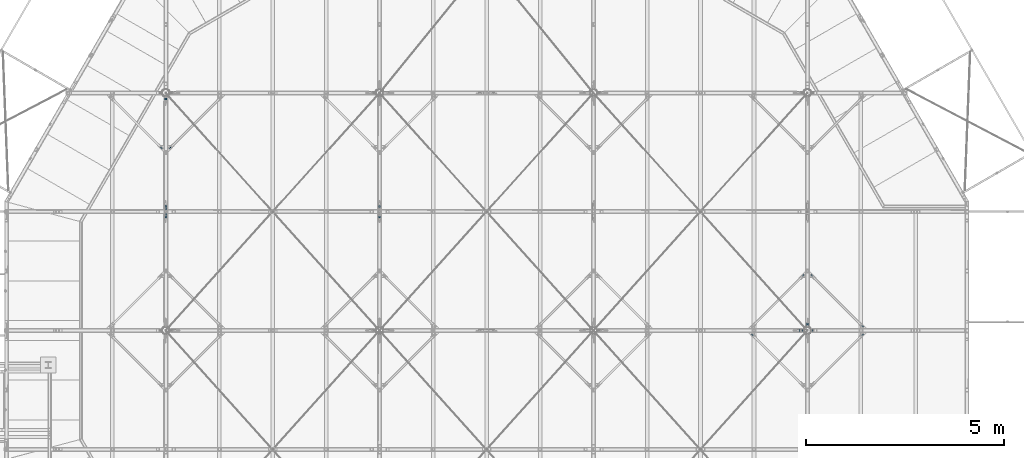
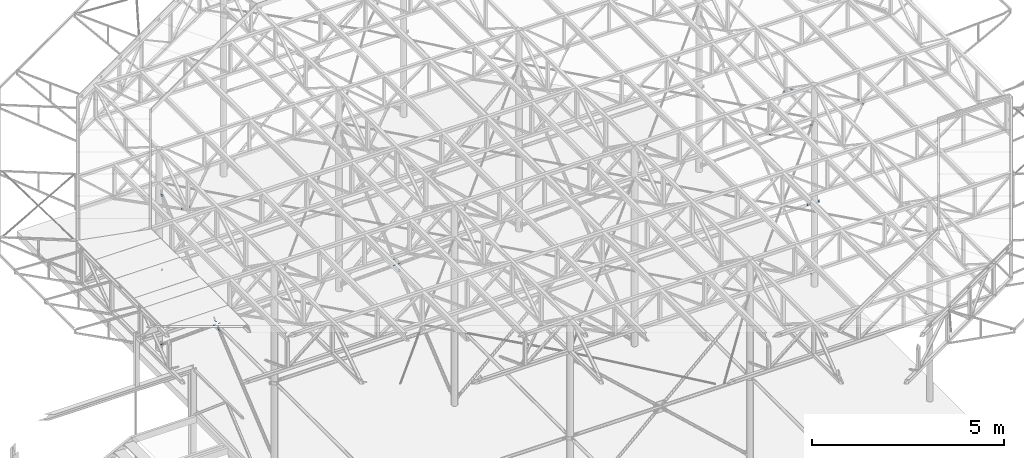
# One storey, part 120 of 132: 28 mechanical fasteners, 23 elements without a shape of their own.
"""IFC2X3 building model written with IfcOpenShell, lengths in millimetres."""

import ifcopenshell
import ifcopenshell.guid

model = None  # the IFC model being written
_history = None  # IfcOwnerHistory: only IFC2X3 demands one
_inside = {}  # id of a spatial element -> (the spatial element, [elements in it])
_under = {}  # id of a project, library or spatial element -> (it, [spatial elements below it])
_declared = {}  # id of a project -> (the project, [libraries it declares])
_typed = {}  # id of a type object -> (the type object, [elements of that type])
_made_of = {}  # id of a material, layer set ... -> (it, [elements and type objects made of it])


def new_model(schema):
    """Start an empty IFC model of exactly this schema.

    Asked for "IFC4X3", IfcOpenShell would pick the latest addendum, in which some entities
    have other attributes; the version numbers below select the first issue.
    IFC2X3 requires an IfcOwnerHistory on every rooted entity: one is made here for all.
    """
    global model, _history
    if schema == "IFC4X3":
        model = ifcopenshell.file(schema_version=(4, 3, 0, 0))
    else:
        model = ifcopenshell.file(schema=schema)
    _inside.clear()
    _under.clear()
    _declared.clear()
    _typed.clear()
    _made_of.clear()
    _history = None
    if model.schema == "IFC2X3":
        org = make("IfcOrganization", Name="unknown")
        user = make(
            "IfcPersonAndOrganization",
            ThePerson=make("IfcPerson", FamilyName="unknown"),
            TheOrganization=org,
        )
        app = make(
            "IfcApplication",
            ApplicationDeveloper=org,
            Version="unknown",
            ApplicationFullName="unknown",
            ApplicationIdentifier="unknown",
        )
        _history = make(
            "IfcOwnerHistory",
            OwningUser=user,
            OwningApplication=app,
            ChangeAction="ADDED",
            CreationDate=0,
        )
    return model


def make(cls, **values):
    """One entity of the class cls with the attributes given. An attribute that is None is left unset."""
    return model.create_entity(
        cls, **{name: value for name, value in values.items() if value is not None}
    )


def rooted(cls, **values):
    """An entity with a GlobalId (a new one), such as an element, a storey or a relation."""
    return make(cls, GlobalId=ifcopenshell.guid.new(), OwnerHistory=_history, **values)


def si_unit(unit_type, name, prefix=None):
    """IfcSIUnit, for example si_unit("LENGTHUNIT", "METRE", prefix="MILLI")."""
    return make("IfcSIUnit", UnitType=unit_type, Prefix=prefix, Name=name)


def assignment(units):
    """IfcUnitAssignment: the units of a project."""
    return None if units is None else make("IfcUnitAssignment", Units=units)


def point(xyz):
    """IfcCartesianPoint."""
    return None if xyz is None else make("IfcCartesianPoint", Coordinates=xyz)


def direction(xyz):
    """IfcDirection."""
    return None if xyz is None else make("IfcDirection", DirectionRatios=xyz)


def frame(location, z_axis=None, x_axis=None):
    """IfcAxis2Placement3D, a coordinate frame: its origin and axes. An axis left out is left unset."""
    return make(
        "IfcAxis2Placement3D",
        Location=point(location),
        Axis=direction(z_axis),
        RefDirection=direction(x_axis),
    )


def frame_2d(location, x_axis=None):
    """IfcAxis2Placement2D, a coordinate frame in the plane: its origin and x axis."""
    return make(
        "IfcAxis2Placement2D", Location=point(location), RefDirection=direction(x_axis)
    )


def origin_with_axes():
    """The frame at (0, 0, 0) with the z axis (0, 0, 1) and the x axis (1, 0, 0) written out."""
    return frame((0.0, 0.0, 0.0), z_axis=(0.0, 0.0, 1.0), x_axis=(1.0, 0.0, 0.0))


def origin_2d_with_axis():
    """The frame at (0, 0) in the plane with the x axis (1, 0) written out."""
    return frame_2d((0.0, 0.0), x_axis=(1.0, 0.0))


def place(relative_to, where):
    """IfcLocalPlacement: puts the frame where relative to a parent placement (None: the world)."""
    return make(
        "IfcLocalPlacement", PlacementRelTo=relative_to, RelativePlacement=where
    )


def context(
    kind, dimensions, precision=None, world=None, true_north=None, identifier=None
):
    """IfcGeometricRepresentationContext, for example the 3D "Model" context."""
    return make(
        "IfcGeometricRepresentationContext",
        ContextIdentifier=identifier,
        ContextType=kind,
        CoordinateSpaceDimension=dimensions,
        Precision=precision,
        WorldCoordinateSystem=world,
        TrueNorth=true_north,
    )


def subcontext(parent, identifier, kind, view, scale=None):
    """IfcGeometricRepresentationSubContext, for example "Body" below "Model"."""
    return make(
        "IfcGeometricRepresentationSubContext",
        ContextIdentifier=identifier,
        ContextType=kind,
        ParentContext=parent,
        TargetScale=scale,
        TargetView=view,
    )


def project(units=None, contexts=None):
    """IfcProject with its units and contexts."""
    return rooted(
        "IfcProject",
        Name="project",
        RepresentationContexts=contexts,
        UnitsInContext=assignment(units),
    )


def spatial(cls, under=None, at=None, **own):
    """A site, building, storey or space (cls), placed at a placement, below another one or the project."""
    s = rooted(cls, ObjectPlacement=at, **own)
    if under is not None:
        _under.setdefault(under.id(), (under, []))[1].append(s)
    return s


def polyline(points):
    """IfcPolyline through the points."""
    return make("IfcPolyline", Points=[point(p) for p in points])


def profile(cls, at=None, kind="AREA", **sizes):
    """A parametric profile (cls). Its sizes go by their IFC names, for example OverallWidth=200.0."""
    return make(cls, ProfileType=kind, Position=at, **sizes)


def circle(**sizes):
    """IfcCircleProfileDef."""
    return profile("IfcCircleProfileDef", **sizes)


def outline(outer, holes=None, kind="AREA"):
    """IfcArbitraryClosedProfileDef: a profile drawn as a closed curve; with holes, ...WithVoids."""
    if holes is None:
        return make("IfcArbitraryClosedProfileDef", ProfileType=kind, OuterCurve=outer)
    return make(
        "IfcArbitraryProfileDefWithVoids",
        ProfileType=kind,
        OuterCurve=outer,
        InnerCurves=holes,
    )


def extrude(swept, where, along, depth):
    """IfcExtrudedAreaSolid: the profile swept, set in the frame where, extruded along a direction by depth."""
    return make(
        "IfcExtrudedAreaSolid",
        SweptArea=swept,
        Position=where,
        ExtrudedDirection=direction(along),
        Depth=depth,
    )


def shape(context_of_items, identifier, shape_type, items):
    """IfcShapeRepresentation: the items that make up one representation, for example the "Body"."""
    return make(
        "IfcShapeRepresentation",
        ContextOfItems=context_of_items,
        RepresentationIdentifier=identifier,
        RepresentationType=shape_type,
        Items=items,
    )


def source(mapping_origin, context_of_items, identifier, shape_type, items):
    """IfcRepresentationMap: a shape defined once, which mapped items show again and again."""
    return make(
        "IfcRepresentationMap",
        MappingOrigin=mapping_origin,
        MappedRepresentation=shape(context_of_items, identifier, shape_type, items),
    )


def transform(
    local_origin,
    x_axis=None,
    y_axis=None,
    z_axis=None,
    scale=None,
    scale2=None,
    scale3=None,
    uniform=True,
):
    """IfcCartesianTransformationOperator3D, or its non-uniform kind. x_axis, y_axis, z_axis: its Axis1, 2, 3."""
    if uniform:
        return make(
            "IfcCartesianTransformationOperator3D",
            Axis1=direction(x_axis),
            Axis2=direction(y_axis),
            LocalOrigin=point(local_origin),
            Scale=scale,
            Axis3=direction(z_axis),
        )
    return make(
        "IfcCartesianTransformationOperator3DnonUniform",
        Axis1=direction(x_axis),
        Axis2=direction(y_axis),
        LocalOrigin=point(local_origin),
        Scale=scale,
        Axis3=direction(z_axis),
        Scale2=scale2,
        Scale3=scale3,
    )


def mapped(mapping_source, mapping_target):
    """IfcMappedItem: shows the shape of a source again, moved by a transform."""
    return make(
        "IfcMappedItem", MappingSource=mapping_source, MappingTarget=mapping_target
    )


def material(Name=None, Category=None):
    """IfcMaterial."""
    return make("IfcMaterial", Name=Name, Category=Category)


def made_of(thing, what):
    """Note that an element or type object is made of a material, layer set ...; save() writes the relation."""
    if what is not None:
        _made_of.setdefault(what.id(), (what, []))[1].append(thing)
    return thing


def type_object(cls, material=None, **own):
    """A type object (cls), such as IfcWallType, which elements share."""
    return made_of(rooted(cls, **own), material)


def element(
    cls,
    number,
    at=None,
    inside=None,
    cuts=None,
    type_object=None,
    material=None,
    context=None,
    identifier="Body",
    shape_type=None,
    held_by="IfcProductDefinitionShape",
    body=None,
    shapes=None,
    **own,
):
    """One element of the class cls, such as IfcWall. Its Tag is "e" and its number.

    at: its placement. inside: the storey or other place that contains it. cuts: it is an
    opening in that element (IfcRelVoidsElement). A single representation is given by context,
    identifier, shape_type and body (its items); several are given by shapes. held_by: the class
    of the entity that holds the representations. save() writes the other relations.
    """
    e = rooted(cls, Tag="e%d" % number, ObjectPlacement=at, **own)
    if body is not None:
        shapes = [shape(context, identifier, shape_type, body)]
    if shapes is not None:
        e.Representation = make(held_by, Representations=shapes)
    if inside is not None:
        _inside.setdefault(inside.id(), (inside, []))[1].append(e)
    if cuts is not None:
        rooted(
            "IfcRelVoidsElement", RelatingBuildingElement=cuts, RelatedOpeningElement=e
        )
    if type_object is not None:
        _typed.setdefault(type_object.id(), (type_object, []))[1].append(e)
    return made_of(e, material)


def aggregate(whole, parts):
    """IfcRelAggregates: a whole, such as a stair, and the parts it consists of."""
    return rooted("IfcRelAggregates", RelatingObject=whole, RelatedObjects=parts)


def save(model, path):
    """Write the relations noted so far, then the file.

    IfcRelAggregates (storeys below a building ...), IfcRelContainedInSpatialStructure (elements
    in a storey), IfcRelDefinesByType, IfcRelAssociatesMaterial and IfcRelDeclares: one each for
    every whole, place, type object, material and project.
    """
    for whole, parts in _under.values():
        aggregate(whole, parts)
    for where, things in _inside.values():
        rooted(
            "IfcRelContainedInSpatialStructure",
            RelatedElements=things,
            RelatingStructure=where,
        )
    for kind, things in _typed.values():
        rooted("IfcRelDefinesByType", RelatedObjects=things, RelatingType=kind)
    for what, things in _made_of.values():
        rooted("IfcRelAssociatesMaterial", RelatedObjects=things, RelatingMaterial=what)
    for by, libraries in _declared.values():
        rooted("IfcRelDeclares", RelatingContext=by, RelatedDefinitions=libraries)
    model.write(path)


model = new_model("IFC2X3")

# Units and contexts
model_context = context("Model", 3, precision=1e-05, world=origin_with_axes())
body_context = subcontext(model_context, "Body", "Model", "MODEL_VIEW")
ifc_project = project(units=[si_unit("LENGTHUNIT", "METRE", prefix="MILLI"), si_unit("AREAUNIT", "SQUARE_METRE"), si_unit("VOLUMEUNIT", "CUBIC_METRE"), si_unit("MASSUNIT", "GRAM", prefix="KILO"), si_unit("TIMEUNIT", "SECOND"), si_unit("PLANEANGLEUNIT", "RADIAN"), si_unit("SOLIDANGLEUNIT", "STERADIAN"), si_unit("THERMODYNAMICTEMPERATUREUNIT", "DEGREE_CELSIUS"), si_unit("LUMINOUSINTENSITYUNIT", "LUMEN")], contexts=[model_context])

# Site, building, storey
site_placement = place(None, origin_with_axes())
site = spatial("IfcSite", under=ifc_project, at=site_placement, Name="Budowa", CompositionType="ELEMENT")
building_placement = place(site_placement, origin_with_axes())
building = spatial("IfcBuilding", under=site, at=building_placement, Name="Undefined", CompositionType="ELEMENT")
storey_placement = place(building_placement, origin_with_axes())
storey = spatial("IfcBuildingStorey", under=building, at=storey_placement, Name="Undefined", CompositionType="ELEMENT", Elevation=0.0)

# Assembly, mechanical fastener
assembly_1_placement = place(storey_placement, origin_with_axes())
assembly_1 = element("IfcElementAssembly", 1, at=assembly_1_placement, inside=storey, Name="Steel Assembly", AssemblyPlace="NOTDEFINED", PredefinedType="RIGID_FRAME")
ifc_material = material(Name="Undefined")
discrete_accessory_type = type_object("IfcDiscreteAccessoryType", Name="Bolt assembly")
shared_shape_1 = source(origin_with_axes(), body_context, "Body", "SweptSolid", [
    extrude(circle(Radius=9.5, at=origin_2d_with_axis()), frame((0.0, -4.09999999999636, 0.0), z_axis=(0.0, 1.0, 0.0), x_axis=(1.0, 0.0, 0.0)), (0.0, 0.0, 1.0), 8.1),
    extrude(circle(Radius=9.5, at=origin_2d_with_axis()), frame((0.0, -11.9, 0.0), z_axis=(0.0, 1.0, 0.0), x_axis=(1.0, 0.0, 0.0)), (0.0, 0.0, 1.0), 8.0),
    extrude(outline(polyline([(13.85640646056, 0.0), (6.92820323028, 12.0000000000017), (-6.92820323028, 12.0000000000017), (-13.85640646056, 0.0), (-6.92820323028, -12.0000000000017), (6.92820323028, -12.0000000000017), (13.85640646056, 0.0)])), frame((0.0, -25.0, 0.0), z_axis=(0.0, 1.0, 0.0), x_axis=(1.0, 0.0, 0.0)), (0.0, 0.0, 1.0), 10.0),
    extrude(circle(Radius=8.0, at=origin_2d_with_axis()), frame((0.0, -15.0, 0.0), z_axis=(0.0, 1.0, 0.0), x_axis=(1.0, 0.0, 0.0)), (0.0, 0.0, 1.0), 40.0),
    extrude(circle(Radius=15.0, at=origin_2d_with_axis()), frame((0.0, -15.0, 0.0), z_axis=(0.0, 1.0, 0.0), x_axis=(1.0, 0.0, 0.0)), (0.0, 0.0, 1.0), 3.0),
    extrude(circle(Radius=15.0, at=origin_2d_with_axis()), frame((0.0, 4.0, 0.0), z_axis=(0.0, 1.0, 0.0), x_axis=(1.0, 0.0, 0.0)), (0.0, 0.0, 1.0), 3.0),
    extrude(outline(polyline([(13.85640646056, 0.0), (6.92820323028, 12.0000000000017), (-6.92820323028, 12.0000000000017), (-13.85640646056, 0.0), (-6.92820323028, -12.0000000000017), (6.92820323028, -12.0000000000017), (13.85640646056, 0.0)])), frame((0.0, 7.0, 0.0), z_axis=(0.0, 1.0, 0.0), x_axis=(1.0, 0.0, 0.0)), (0.0, 0.0, 1.0), 13.0),
])
mechanical_fastener_1_placement = place(assembly_1_placement, frame((4025.00000032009, 15117.561442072, 10018.2969107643), z_axis=(0.0, -0.63916553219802, -0.769069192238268), x_axis=(0.0, 0.769069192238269, -0.639165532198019)))
mechanical_fastener_1 = element("IfcMechanicalFastener", 2, at=mechanical_fastener_1_placement, type_object=discrete_accessory_type, material=ifc_material, Name="Bolt assembly", NominalDiameter=16.0, NominalLength=40.0, context=body_context, shape_type="MappedRepresentation", body=[
    mapped(shared_shape_1, transform((0.0, 0.0, 0.0))),
    mapped(shared_shape_1, transform((40.0000000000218, 0.0, -1.81898940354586e-12))),
])

assembly_2_placement = place(storey_placement, origin_with_axes())
assembly_2 = element("IfcElementAssembly", 3, at=assembly_2_placement, inside=storey, Name="Steel Assembly", AssemblyPlace="NOTDEFINED", PredefinedType="RIGID_FRAME")
mechanical_fastener_2_placement = place(assembly_2_placement, frame((4025.00000032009, 14882.4407087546, 10018.2969108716), z_axis=(0.0, -0.639165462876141, 0.769069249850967), x_axis=(0.0, -0.769069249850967, -0.639165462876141)))
mechanical_fastener_2 = element("IfcMechanicalFastener", 4, at=mechanical_fastener_2_placement, type_object=discrete_accessory_type, material=ifc_material, Name="Bolt assembly", NominalDiameter=16.0, NominalLength=40.0, context=body_context, shape_type="MappedRepresentation", body=[
    mapped(shared_shape_1, transform((0.0, 0.0, 0.0))),
    mapped(shared_shape_1, transform((40.0000000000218, 0.0, -1.81898940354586e-12))),
])
aggregate(assembly_2, [mechanical_fastener_2])

assembly_3_placement = place(storey_placement, origin_with_axes())
assembly_3 = element("IfcElementAssembly", 5, at=assembly_3_placement, inside=storey, Name="Steel Assembly", AssemblyPlace="NOTDEFINED", PredefinedType="RIGID_FRAME")
mechanical_fastener_3_placement = place(assembly_3_placement, frame((4025.00000058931, 14882.4401106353, 10213.7038423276), z_axis=(0.0, 0.639165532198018, 0.76906919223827), x_axis=(0.0, -0.76906919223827, 0.639165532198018)))
mechanical_fastener_3 = element("IfcMechanicalFastener", 6, at=mechanical_fastener_3_placement, type_object=discrete_accessory_type, material=ifc_material, Name="Bolt assembly", NominalDiameter=16.0, NominalLength=40.0, context=body_context, shape_type="MappedRepresentation", body=[
    mapped(shared_shape_1, transform((0.0, 0.0, 0.0))),
    mapped(shared_shape_1, transform((40.0000000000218, 0.0, -1.81898940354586e-12))),
])
aggregate(assembly_3, [mechanical_fastener_3])

assembly_4_placement = place(storey_placement, origin_with_axes())
assembly_4 = element("IfcElementAssembly", 7, at=assembly_4_placement, inside=storey, Name="Steel Assembly", AssemblyPlace="NOTDEFINED", PredefinedType="RIGID_FRAME")
mechanical_fastener_4_placement = place(assembly_4_placement, frame((4025.00000058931, 15117.5620842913, 10213.7038425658), z_axis=(0.0, 0.639165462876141, -0.769069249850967), x_axis=(0.0, 0.769069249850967, 0.639165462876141)))
mechanical_fastener_4 = element("IfcMechanicalFastener", 8, at=mechanical_fastener_4_placement, type_object=discrete_accessory_type, material=ifc_material, Name="Bolt assembly", NominalDiameter=16.0, NominalLength=40.0, context=body_context, shape_type="MappedRepresentation", body=[
    mapped(shared_shape_1, transform((0.0, 0.0, 0.0))),
    mapped(shared_shape_1, transform((40.0000000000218, 0.0, -1.81898940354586e-12))),
])

assembly_5_placement = place(storey_placement, origin_with_axes())
assembly_5 = element("IfcElementAssembly", 9, at=assembly_5_placement, inside=storey, Name="Steel Assembly", AssemblyPlace="NOTDEFINED", PredefinedType="RIGID_FRAME")
mechanical_fastener_5_placement = place(assembly_5_placement, frame((9425.00000029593, 15117.5614420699, 10018.296910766), z_axis=(0.0, -0.63916553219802, -0.769069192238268), x_axis=(0.0, 0.769069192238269, -0.639165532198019)))
mechanical_fastener_5 = element("IfcMechanicalFastener", 10, at=mechanical_fastener_5_placement, type_object=discrete_accessory_type, material=ifc_material, Name="Bolt assembly", NominalDiameter=16.0, NominalLength=40.0, context=body_context, shape_type="MappedRepresentation", body=[
    mapped(shared_shape_1, transform((0.0, 0.0, 0.0))),
    mapped(shared_shape_1, transform((40.0000000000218, 0.0, -1.81898940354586e-12))),
])
aggregate(assembly_5, [mechanical_fastener_5])

assembly_6_placement = place(storey_placement, origin_with_axes())
assembly_6 = element("IfcElementAssembly", 11, at=assembly_6_placement, inside=storey, Name="Steel Assembly", AssemblyPlace="NOTDEFINED", PredefinedType="RIGID_FRAME")
mechanical_fastener_6_placement = place(assembly_6_placement, frame((9425.00000029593, 14882.440708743, 10018.296910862), z_axis=(0.0, -0.639165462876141, 0.769069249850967), x_axis=(0.0, -0.769069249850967, -0.639165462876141)))
mechanical_fastener_6 = element("IfcMechanicalFastener", 12, at=mechanical_fastener_6_placement, type_object=discrete_accessory_type, material=ifc_material, Name="Bolt assembly", NominalDiameter=16.0, NominalLength=40.0, context=body_context, shape_type="MappedRepresentation", body=[
    mapped(shared_shape_1, transform((0.0, 0.0, 0.0))),
    mapped(shared_shape_1, transform((40.0000000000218, 0.0, -1.81898940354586e-12))),
])
aggregate(assembly_6, [mechanical_fastener_6])

assembly_7_placement = place(storey_placement, origin_with_axes())
assembly_7 = element("IfcElementAssembly", 13, at=assembly_7_placement, inside=storey, Name="Steel Assembly", AssemblyPlace="NOTDEFINED", PredefinedType="RIGID_FRAME")
mechanical_fastener_7_placement = place(assembly_7_placement, frame((9425.00000056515, 14882.4401106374, 10213.7038423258), z_axis=(0.0, 0.639165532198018, 0.76906919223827), x_axis=(0.0, -0.76906919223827, 0.639165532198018)))
mechanical_fastener_7 = element("IfcMechanicalFastener", 14, at=mechanical_fastener_7_placement, type_object=discrete_accessory_type, material=ifc_material, Name="Bolt assembly", NominalDiameter=16.0, NominalLength=40.0, context=body_context, shape_type="MappedRepresentation", body=[
    mapped(shared_shape_1, transform((0.0, 0.0, 0.0))),
    mapped(shared_shape_1, transform((40.0000000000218, 0.0, -1.81898940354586e-12))),
])
aggregate(assembly_7, [mechanical_fastener_7])

assembly_8_placement = place(storey_placement, origin_with_axes())
assembly_8 = element("IfcElementAssembly", 15, at=assembly_8_placement, inside=storey, Name="Steel Assembly", AssemblyPlace="NOTDEFINED", PredefinedType="RIGID_FRAME")
mechanical_fastener_8_placement = place(assembly_8_placement, frame((9425.00000056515, 15117.5620843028, 10213.7038425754), z_axis=(0.0, 0.639165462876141, -0.769069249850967), x_axis=(0.0, 0.769069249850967, 0.639165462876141)))
mechanical_fastener_8 = element("IfcMechanicalFastener", 16, at=mechanical_fastener_8_placement, type_object=discrete_accessory_type, material=ifc_material, Name="Bolt assembly", NominalDiameter=16.0, NominalLength=40.0, context=body_context, shape_type="MappedRepresentation", body=[
    mapped(shared_shape_1, transform((0.0, 0.0, 0.0))),
    mapped(shared_shape_1, transform((40.0000000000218, 0.0, -1.81898940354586e-12))),
])
aggregate(assembly_8, [mechanical_fastener_8])

assembly_9_placement = place(storey_placement, origin_with_axes())
assembly_9 = element("IfcElementAssembly", 17, at=assembly_9_placement, inside=storey, Name="Steel Assembly", AssemblyPlace="NOTDEFINED", PredefinedType="RIGID_FRAME")
shared_shape_2 = source(origin_with_axes(), body_context, "Body", "SweptSolid", [
    extrude(circle(Radius=9.0, at=origin_2d_with_axis()), frame((0.0, 0.0999999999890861, 0.0), z_axis=(0.0, 1.0, 0.0), x_axis=(1.0, 0.0, 0.0)), (0.0, 0.0, 1.0), 8.0),
    extrude(circle(Radius=9.0, at=origin_2d_with_axis()), frame((0.0, 11.9000000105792, 0.0), z_axis=(0.0, 1.0, 0.0), x_axis=(1.0, 0.0, 0.0)), (0.0, 0.0, 1.0), 8.1),
    extrude(outline(polyline([(13.85640646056, 0.0), (6.92820323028, 12.0000000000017), (-6.92820323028, 12.0000000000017), (-13.85640646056, 0.0), (-6.92820323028, -12.0000000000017), (6.92820323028, -12.0000000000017), (13.85640646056, 0.0)])), frame((0.0, -13.0, 0.0), z_axis=(0.0, 1.0, 0.0), x_axis=(1.0, 0.0, 0.0)), (0.0, 0.0, 1.0), 10.0),
    extrude(circle(Radius=8.0, at=origin_2d_with_axis()), frame((0.0, -2.99999999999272, 0.0), z_axis=(0.0, 1.0, 0.0), x_axis=(1.0, 0.0, 0.0)), (0.0, 0.0, 1.0), 45.0),
    extrude(circle(Radius=15.0, at=origin_2d_with_axis()), frame((0.0, -2.99999999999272, 0.0), z_axis=(0.0, 1.0, 0.0), x_axis=(1.0, 0.0, 0.0)), (0.0, 0.0, 1.0), 3.0),
    extrude(circle(Radius=15.0, at=origin_2d_with_axis()), frame((0.0, 20.0000000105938, 0.0), z_axis=(0.0, 1.0, 0.0), x_axis=(1.0, 0.0, 0.0)), (0.0, 0.0, 1.0), 3.0),
    extrude(outline(polyline([(13.85640646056, 0.0), (6.92820323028, 12.0000000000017), (-6.92820323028, 12.0000000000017), (-13.85640646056, 0.0), (-6.92820323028, -12.0000000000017), (6.92820323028, -12.0000000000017), (13.85640646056, 0.0)])), frame((0.0, 23.0000000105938, 0.0), z_axis=(0.0, 1.0, 0.0), x_axis=(1.0, 0.0, 0.0)), (0.0, 0.0, 1.0), 13.0),
])
mechanical_fastener_9_placement = place(assembly_9_placement, frame((20353.1367126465, 11990.000000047, 10096.0003779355), z_axis=(-1.0, 0.0, 0.0), x_axis=(0.0, 0.0, 1.0)))
mechanical_fastener_9 = element("IfcMechanicalFastener", 18, at=mechanical_fastener_9_placement, type_object=discrete_accessory_type, material=ifc_material, Name="Bolt assembly", NominalDiameter=16.0, NominalLength=45.0, context=body_context, shape_type="MappedRepresentation", body=[
    mapped(shared_shape_2, transform((0.0, 0.0, 0.0))),
    mapped(shared_shape_2, transform((40.0000000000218, 0.0, -1.81898940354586e-12))),
])

assembly_10_placement = place(storey_placement, origin_with_axes())
assembly_10 = element("IfcElementAssembly", 19, at=assembly_10_placement, inside=storey, Name="Steel Assembly", AssemblyPlace="NOTDEFINED", PredefinedType="RIGID_FRAME")
shared_shape_3 = source(origin_with_axes(), body_context, "Body", "SweptSolid", [
    extrude(circle(Radius=9.0, at=origin_2d_with_axis()), frame((0.0, -4.09999999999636, 0.0), z_axis=(0.0, 1.0, 0.0), x_axis=(1.0, 0.0, 0.0)), (0.0, 0.0, 1.0), 8.1),
    extrude(circle(Radius=9.0, at=origin_2d_with_axis()), frame((0.0, -11.9, 0.0), z_axis=(0.0, 1.0, 0.0), x_axis=(1.0, 0.0, 0.0)), (0.0, 0.0, 1.0), 8.0),
    extrude(outline(polyline([(13.85640646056, 0.0), (6.92820323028, 12.0000000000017), (-6.92820323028, 12.0000000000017), (-13.85640646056, 0.0), (-6.92820323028, -12.0000000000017), (6.92820323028, -12.0000000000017), (13.85640646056, 0.0)])), frame((0.0, -25.0, 0.0), z_axis=(0.0, 1.0, 0.0), x_axis=(1.0, 0.0, 0.0)), (0.0, 0.0, 1.0), 10.0),
    extrude(circle(Radius=8.0, at=origin_2d_with_axis()), frame((0.0, -15.0, 0.0), z_axis=(0.0, 1.0, 0.0), x_axis=(1.0, 0.0, 0.0)), (0.0, 0.0, 1.0), 40.0),
    extrude(circle(Radius=15.0, at=origin_2d_with_axis()), frame((0.0, -15.0, 0.0), z_axis=(0.0, 1.0, 0.0), x_axis=(1.0, 0.0, 0.0)), (0.0, 0.0, 1.0), 3.0),
    extrude(circle(Radius=15.0, at=origin_2d_with_axis()), frame((0.0, 4.0, 0.0), z_axis=(0.0, 1.0, 0.0), x_axis=(1.0, 0.0, 0.0)), (0.0, 0.0, 1.0), 3.0),
    extrude(outline(polyline([(13.85640646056, 0.0), (6.92820323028, 12.0000000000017), (-6.92820323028, 12.0000000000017), (-13.85640646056, 0.0), (-6.92820323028, -12.0000000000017), (6.92820323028, -12.0000000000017), (13.85640646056, 0.0)])), frame((0.0, 7.0, 0.0), z_axis=(0.0, 1.0, 0.0), x_axis=(1.0, 0.0, 0.0)), (0.0, 0.0, 1.0), 13.0),
])
mechanical_fastener_10_placement = place(assembly_10_placement, frame((4025.00000247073, 17842.0920947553, 10116.0003779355), z_axis=(0.0, 0.0, 1.0), x_axis=(0.0, -1.0, 0.0)))
mechanical_fastener_10 = element("IfcMechanicalFastener", 20, at=mechanical_fastener_10_placement, type_object=discrete_accessory_type, material=ifc_material, Name="Bolt assembly", NominalDiameter=16.0, NominalLength=40.0, context=body_context, shape_type="MappedRepresentation", body=[
    mapped(shared_shape_3, transform((0.0, 0.0, -20.0))),
    mapped(shared_shape_3, transform((0.0, 0.0, 20.0))),
])
aggregate(assembly_10, [mechanical_fastener_10])

assembly_11_placement = place(storey_placement, origin_with_axes())
assembly_11 = element("IfcElementAssembly", 21, at=assembly_11_placement, inside=storey, Name="Steel Assembly", AssemblyPlace="NOTDEFINED", PredefinedType="RIGID_FRAME")
mechanical_fastener_11_placement = place(assembly_11_placement, frame((20224.9999969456, 12157.9079054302, 10116.0003779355), z_axis=(0.0, 0.0, 1.0), x_axis=(0.0, 1.0, 0.0)))
mechanical_fastener_11 = element("IfcMechanicalFastener", 22, at=mechanical_fastener_11_placement, type_object=discrete_accessory_type, material=ifc_material, Name="Bolt assembly", NominalDiameter=16.0, NominalLength=40.0, context=body_context, shape_type="MappedRepresentation", body=[
    mapped(shared_shape_3, transform((0.0, 0.0, -20.0))),
    mapped(shared_shape_3, transform((0.0, 0.0, 20.0))),
])
aggregate(assembly_11, [mechanical_fastener_11])

assembly_12_placement = place(storey_placement, origin_with_axes())
assembly_12 = element("IfcElementAssembly", 23, at=assembly_12_placement, inside=storey, Name="Steel Assembly", AssemblyPlace="NOTDEFINED", PredefinedType="RIGID_FRAME")
mechanical_fastener_12_placement = place(assembly_12_placement, frame((4025.00000000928, 14945.0515198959, 10070.3321054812), z_axis=(0.0, 0.639165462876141, -0.769069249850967), x_axis=(0.0, -0.769069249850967, -0.639165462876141)))
mechanical_fastener_12 = element("IfcMechanicalFastener", 24, at=mechanical_fastener_12_placement, type_object=discrete_accessory_type, material=ifc_material, Name="Bolt assembly", NominalDiameter=16.0, NominalLength=40.0, context=body_context, shape_type="MappedRepresentation", body=[
    mapped(shared_shape_3, transform((0.0, 0.0, 0.0))),
    mapped(shared_shape_3, transform((40.0000000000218, 0.0, -1.81898940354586e-12))),
])
aggregate(assembly_12, [mechanical_fastener_12])

assembly_13_placement = place(storey_placement, origin_with_axes())
assembly_13 = element("IfcElementAssembly", 25, at=assembly_13_placement, inside=storey, Name="Steel Assembly", AssemblyPlace="NOTDEFINED", PredefinedType="RIGID_FRAME")
mechanical_fastener_13_placement = place(assembly_13_placement, frame((4025.00000001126, 17859.8220601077, 7739.23218545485), z_axis=(0.0, -0.63916553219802, -0.769069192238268), x_axis=(0.0, -0.76906919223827, 0.639165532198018)))
mechanical_fastener_13 = element("IfcMechanicalFastener", 26, at=mechanical_fastener_13_placement, type_object=discrete_accessory_type, material=ifc_material, Name="Bolt assembly", NominalDiameter=16.0, NominalLength=40.0, context=body_context, shape_type="MappedRepresentation", body=[
    mapped(shared_shape_3, transform((0.0, 0.0, 0.0))),
    mapped(shared_shape_3, transform((40.0000000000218, 0.0, -1.81898940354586e-12))),
])
aggregate(assembly_13, [mechanical_fastener_13])

# Assembly, mechanical fasteners
assembly_14_placement = place(storey_placement, origin_with_axes())
assembly_14 = element("IfcElementAssembly", 27, at=assembly_14_placement, inside=storey, Name="Steel Assembly", AssemblyPlace="NOTDEFINED", PredefinedType="RIGID_FRAME")
mechanical_fastener_14_placement = place(assembly_14_placement, frame((4024.99999982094, 15054.9506530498, 10161.6681325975), z_axis=(0.0, -0.639165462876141, 0.769069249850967), x_axis=(0.0, 0.769069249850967, 0.639165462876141)))
mechanical_fastener_14 = element("IfcMechanicalFastener", 28, at=mechanical_fastener_14_placement, type_object=discrete_accessory_type, material=ifc_material, Name="Bolt assembly", NominalDiameter=16.0, NominalLength=40.0, context=body_context, shape_type="MappedRepresentation", body=[
    mapped(shared_shape_3, transform((0.0, 0.0, 0.0))),
    mapped(shared_shape_3, transform((40.0000000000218, 0.0, -1.81898940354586e-12))),
])
mechanical_fastener_15_placement = place(assembly_14_placement, frame((4025.00000000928, 17859.822059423, 12492.7676156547), z_axis=(0.0, 0.639165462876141, -0.769069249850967), x_axis=(0.0, -0.769069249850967, -0.639165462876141)))
mechanical_fastener_15 = element("IfcMechanicalFastener", 29, at=mechanical_fastener_15_placement, type_object=discrete_accessory_type, material=ifc_material, Name="Bolt assembly", NominalDiameter=16.0, NominalLength=40.0, context=body_context, shape_type="MappedRepresentation", body=[
    mapped(shared_shape_3, transform((0.0, 0.0, 0.0))),
    mapped(shared_shape_3, transform((40.0000000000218, 0.0, -1.81898940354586e-12))),
])
aggregate(assembly_14, [mechanical_fastener_14, mechanical_fastener_15])

# Assembly, mechanical fastener
assembly_15_placement = place(storey_placement, origin_with_axes())
assembly_15 = element("IfcElementAssembly", 30, at=assembly_15_placement, inside=storey, Name="Steel Assembly", AssemblyPlace="NOTDEFINED", PredefinedType="RIGID_FRAME")
mechanical_fastener_16_placement = place(assembly_15_placement, frame((20224.9999999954, 12140.1779391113, 7739.23081470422), z_axis=(0.0, -0.639165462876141, 0.769069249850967), x_axis=(0.0, 0.769069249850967, 0.639165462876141)))
mechanical_fastener_16 = element("IfcMechanicalFastener", 31, at=mechanical_fastener_16_placement, type_object=discrete_accessory_type, material=ifc_material, Name="Bolt assembly", NominalDiameter=16.0, NominalLength=40.0, context=body_context, shape_type="MappedRepresentation", body=[
    mapped(shared_shape_3, transform((0.0, 0.0, 0.0))),
    mapped(shared_shape_3, transform((40.0000000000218, 0.0, -1.81898940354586e-12))),
])
aggregate(assembly_15, [mechanical_fastener_16])

assembly_16_placement = place(storey_placement, origin_with_axes())
assembly_16 = element("IfcElementAssembly", 32, at=assembly_16_placement, inside=storey, Name="Steel Assembly", AssemblyPlace="NOTDEFINED", PredefinedType="RIGID_FRAME")
mechanical_fastener_17_placement = place(assembly_16_placement, frame((20224.9999999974, 12140.1779415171, 12492.7698566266), z_axis=(0.0, 0.639165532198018, 0.76906919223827), x_axis=(0.0, 0.769069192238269, -0.639165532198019)))
mechanical_fastener_17 = element("IfcMechanicalFastener", 33, at=mechanical_fastener_17_placement, type_object=discrete_accessory_type, material=ifc_material, Name="Bolt assembly", NominalDiameter=16.0, NominalLength=40.0, context=body_context, shape_type="MappedRepresentation", body=[
    mapped(shared_shape_3, transform((0.0, 0.0, 0.0))),
    mapped(shared_shape_3, transform((40.0000000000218, 0.0, -1.81898940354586e-12))),
])
aggregate(assembly_16, [mechanical_fastener_17])

# Mechanical fastener
shared_shape_4 = source(origin_with_axes(), body_context, "Body", "SweptSolid", [
    extrude(circle(Radius=9.0, at=origin_2d_with_axis()), frame((0.0, 0.0999999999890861, 0.0), z_axis=(0.0, 1.0, 0.0), x_axis=(1.0, 0.0, 0.0)), (0.0, 0.0, 1.0), 8.0),
    extrude(circle(Radius=9.0, at=origin_2d_with_axis()), frame((0.0, 7.9000007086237, 0.0), z_axis=(0.0, 1.0, 0.0), x_axis=(1.0, 0.0, 0.0)), (0.0, 0.0, 1.0), 8.1),
    extrude(outline(polyline([(13.85640646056, 0.0), (6.92820323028, 12.0000000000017), (-6.92820323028, 12.0000000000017), (-13.85640646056, 0.0), (-6.92820323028, -12.0000000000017), (6.92820323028, -12.0000000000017), (13.85640646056, 0.0)])), frame((0.0, -13.0, 0.0), z_axis=(0.0, 1.0, 0.0), x_axis=(1.0, 0.0, 0.0)), (0.0, 0.0, 1.0), 10.0),
    extrude(circle(Radius=8.0, at=origin_2d_with_axis()), frame((0.0, -2.99999999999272, 0.0), z_axis=(0.0, 1.0, 0.0), x_axis=(1.0, 0.0, 0.0)), (0.0, 0.0, 1.0), 40.0),
    extrude(circle(Radius=15.0, at=origin_2d_with_axis()), frame((0.0, -2.99999999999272, 0.0), z_axis=(0.0, 1.0, 0.0), x_axis=(1.0, 0.0, 0.0)), (0.0, 0.0, 1.0), 3.0),
    extrude(circle(Radius=15.0, at=origin_2d_with_axis()), frame((0.0, 16.0000007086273, 0.0), z_axis=(0.0, 1.0, 0.0), x_axis=(1.0, 0.0, 0.0)), (0.0, 0.0, 1.0), 3.0),
    extrude(outline(polyline([(13.85640646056, 0.0), (6.92820323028, 12.0000000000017), (-6.92820323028, 12.0000000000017), (-13.85640646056, 0.0), (-6.92820323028, -12.0000000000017), (6.92820323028, -12.0000000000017), (13.85640646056, 0.0)])), frame((0.0, 19.0000007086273, 0.0), z_axis=(0.0, 1.0, 0.0), x_axis=(1.0, 0.0, 0.0)), (0.0, 0.0, 1.0), 13.0),
])
mechanical_fastener_18_placement = place(assembly_9_placement, frame((20021.8633056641, 11993.9999994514, 10096.0003779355), z_axis=(-1.0, 0.0, 0.0), x_axis=(0.0, 0.0, 1.0)))
mechanical_fastener_18 = element("IfcMechanicalFastener", 34, at=mechanical_fastener_18_placement, type_object=discrete_accessory_type, material=ifc_material, Name="Bolt assembly", NominalDiameter=16.0, NominalLength=40.0, context=body_context, shape_type="MappedRepresentation", body=[
    mapped(shared_shape_4, transform((0.0, 0.0, 0.0))),
    mapped(shared_shape_4, transform((40.0000000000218, 0.0, -1.81898940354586e-12))),
])

aggregate(assembly_9, [mechanical_fastener_18, mechanical_fastener_9])

# Assembly, mechanical fastener
assembly_17_placement = place(storey_placement, origin_with_axes())
assembly_17 = element("IfcElementAssembly", 35, at=assembly_17_placement, inside=storey, Name="Steel Assembly", AssemblyPlace="NOTDEFINED", PredefinedType="RIGID_FRAME")
shared_shape_5 = source(origin_with_axes(), body_context, "Body", "SweptSolid", [
    extrude(circle(Radius=9.0, at=origin_2d_with_axis()), frame((0.0, 11.9000000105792, 0.0), z_axis=(0.0, 1.0, 0.0), x_axis=(1.0, 0.0, 0.0)), (0.0, 0.0, 1.0), 8.1),
    extrude(circle(Radius=9.0, at=origin_2d_with_axis()), frame((0.0, 0.0999999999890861, 0.0), z_axis=(0.0, 1.0, 0.0), x_axis=(1.0, 0.0, 0.0)), (0.0, 0.0, 1.0), 8.0),
    extrude(outline(polyline([(13.85640646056, 0.0), (6.92820323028, 12.0000000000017), (-6.92820323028, 12.0000000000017), (-13.85640646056, 0.0), (-6.92820323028, -12.0000000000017), (6.92820323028, -12.0000000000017), (13.85640646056, 0.0)])), frame((0.0, -13.0, 0.0), z_axis=(0.0, 1.0, 0.0), x_axis=(1.0, 0.0, 0.0)), (0.0, 0.0, 1.0), 10.0),
    extrude(circle(Radius=8.0, at=origin_2d_with_axis()), frame((0.0, -2.99999999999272, 0.0), z_axis=(0.0, 1.0, 0.0), x_axis=(1.0, 0.0, 0.0)), (0.0, 0.0, 1.0), 45.0),
    extrude(circle(Radius=15.0, at=origin_2d_with_axis()), frame((0.0, -2.99999999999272, 0.0), z_axis=(0.0, 1.0, 0.0), x_axis=(1.0, 0.0, 0.0)), (0.0, 0.0, 1.0), 3.0),
    extrude(circle(Radius=15.0, at=origin_2d_with_axis()), frame((0.0, 20.0000000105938, 0.0), z_axis=(0.0, 1.0, 0.0), x_axis=(1.0, 0.0, 0.0)), (0.0, 0.0, 1.0), 3.0),
    extrude(outline(polyline([(13.85640646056, 0.0), (6.92820323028, 12.0000000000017), (-6.92820323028, 12.0000000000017), (-13.85640646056, 0.0), (-6.92820323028, -12.0000000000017), (6.92820323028, -12.0000000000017), (13.85640646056, 0.0)])), frame((0.0, 23.0000000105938, 0.0), z_axis=(0.0, 1.0, 0.0), x_axis=(1.0, 0.0, 0.0)), (0.0, 0.0, 1.0), 13.0),
])
mechanical_fastener_19_placement = place(assembly_17_placement, frame((20096.8633056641, 11989.9999999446, 10096.0003779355), z_axis=(-1.0, 0.0, 0.0), x_axis=(0.0, 0.0, 1.0)))
mechanical_fastener_19 = element("IfcMechanicalFastener", 36, at=mechanical_fastener_19_placement, type_object=discrete_accessory_type, material=ifc_material, Name="Bolt assembly", NominalDiameter=16.0, NominalLength=45.0, context=body_context, shape_type="MappedRepresentation", body=[
    mapped(shared_shape_5, transform((0.0, 0.0, 0.0))),
    mapped(shared_shape_5, transform((40.0000000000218, 0.0, -1.81898940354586e-12))),
])
aggregate(assembly_17, [mechanical_fastener_19])

# Mechanical fastener
shared_shape_6 = source(origin_with_axes(), body_context, "Body", "SweptSolid", [
    extrude(circle(Radius=9.0, at=origin_2d_with_axis()), frame((0.0, -3.9000024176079, 0.0), z_axis=(0.0, 1.0, 0.0), x_axis=(1.0, 0.0, 0.0)), (0.0, 0.0, 1.0), 8.0),
    extrude(circle(Radius=9.0, at=origin_2d_with_axis()), frame((0.0, 3.90000010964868, 0.0), z_axis=(0.0, 1.0, 0.0), x_axis=(1.0, 0.0, 0.0)), (0.0, 0.0, 1.0), 8.1),
    extrude(outline(polyline([(13.85640646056, 0.0), (6.92820323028, 12.0000000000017), (-6.92820323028, 12.0000000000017), (-13.85640646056, 0.0), (-6.92820323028, -12.0000000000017), (6.92820323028, -12.0000000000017), (13.85640646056, 0.0)])), frame((0.0, -17.0000024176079, 0.0), z_axis=(0.0, 1.0, 0.0), x_axis=(1.0, 0.0, 0.0)), (0.0, 0.0, 1.0), 10.0),
    extrude(circle(Radius=8.0, at=origin_2d_with_axis()), frame((0.0, -7.0000024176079, 0.0), z_axis=(0.0, 1.0, 0.0), x_axis=(1.0, 0.0, 0.0)), (0.0, 0.0, 1.0), 40.0),
    extrude(circle(Radius=15.0, at=origin_2d_with_axis()), frame((0.0, -7.0000024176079, 0.0), z_axis=(0.0, 1.0, 0.0), x_axis=(1.0, 0.0, 0.0)), (0.0, 0.0, 1.0), 3.0),
    extrude(circle(Radius=15.0, at=origin_2d_with_axis()), frame((0.0, 12.0000001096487, 0.0), z_axis=(0.0, 1.0, 0.0), x_axis=(1.0, 0.0, 0.0)), (0.0, 0.0, 1.0), 3.0),
    extrude(outline(polyline([(13.85640646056, 0.0), (6.92820323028, 12.0000000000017), (-6.92820323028, 12.0000000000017), (-13.85640646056, 0.0), (-6.92820323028, -12.0000000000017), (6.92820323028, -12.0000000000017), (13.85640646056, 0.0)])), frame((0.0, 15.0000001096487, 0.0), z_axis=(0.0, 1.0, 0.0), x_axis=(1.0, 0.0, 0.0)), (0.0, 0.0, 1.0), 13.0),
])
mechanical_fastener_20_placement = place(assembly_1_placement, frame((4025.00000001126, 17859.8220601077, 7739.23218545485), z_axis=(0.0, -0.63916553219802, -0.769069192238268), x_axis=(0.0, -0.76906919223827, 0.639165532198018)))
mechanical_fastener_20 = element("IfcMechanicalFastener", 37, at=mechanical_fastener_20_placement, type_object=discrete_accessory_type, material=ifc_material, Name="Bolt assembly", NominalDiameter=16.0, NominalLength=40.0, context=body_context, shape_type="MappedRepresentation", body=[
    mapped(shared_shape_6, transform((0.0, 0.0, 0.0))),
    mapped(shared_shape_6, transform((40.0000000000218, 0.0, -1.81898940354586e-12))),
])

aggregate(assembly_1, [mechanical_fastener_1, mechanical_fastener_20])

mechanical_fastener_21_placement = place(assembly_4_placement, frame((4025.00000000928, 17859.822059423, 12492.7676156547), z_axis=(0.0, 0.639165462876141, -0.769069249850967), x_axis=(0.0, -0.769069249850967, -0.639165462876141)))
mechanical_fastener_21 = element("IfcMechanicalFastener", 38, at=mechanical_fastener_21_placement, type_object=discrete_accessory_type, material=ifc_material, Name="Bolt assembly", NominalDiameter=16.0, NominalLength=40.0, context=body_context, shape_type="MappedRepresentation", body=[
    mapped(shared_shape_6, transform((0.0, 0.0, 0.0))),
    mapped(shared_shape_6, transform((40.0000000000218, 0.0, -1.81898940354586e-12))),
])

aggregate(assembly_4, [mechanical_fastener_4, mechanical_fastener_21])

# Assembly, mechanical fastener
assembly_18_placement = place(storey_placement, origin_with_axes())
assembly_18 = element("IfcElementAssembly", 39, at=assembly_18_placement, inside=storey, Name="Steel Assembly", AssemblyPlace="NOTDEFINED", PredefinedType="RIGID_FRAME")
shared_shape_7 = source(origin_with_axes(), body_context, "Body", "SweptSolid", [
    extrude(circle(Radius=6.5, at=origin_2d_with_axis()), frame((0.0, -3.1, 0.0), z_axis=(0.0, 1.0, 0.0), x_axis=(1.0, 0.0, 0.0)), (0.0, 0.0, 1.0), 6.1),
    extrude(circle(Radius=6.5, at=origin_2d_with_axis()), frame((0.0, -8.9, 0.0), z_axis=(0.0, 1.0, 0.0), x_axis=(1.0, 0.0, 0.0)), (0.0, 0.0, 1.0), 6.0),
    extrude(outline(polyline([(10.39230484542, 0.0), (5.19615242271, 9.00000000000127), (-5.19615242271, 9.00000000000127), (-10.39230484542, 0.0), (-5.19615242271, -9.00000000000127), (5.19615242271, -9.00000000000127), (10.39230484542, 0.0)])), frame((0.0, -19.5, 0.0), z_axis=(0.0, 1.0, 0.0), x_axis=(1.0, 0.0, 0.0)), (0.0, 0.0, 1.0), 7.5),
    extrude(circle(Radius=6.0, at=origin_2d_with_axis()), frame((0.0, -12.0, 0.0), z_axis=(0.0, 1.0, 0.0), x_axis=(1.0, 0.0, 0.0)), (0.0, 0.0, 1.0), 35.0),
    extrude(circle(Radius=12.0, at=origin_2d_with_axis()), frame((0.0, -12.0, 0.0), z_axis=(0.0, 1.0, 0.0), x_axis=(1.0, 0.0, 0.0)), (0.0, 0.0, 1.0), 3.0),
    extrude(circle(Radius=12.0, at=origin_2d_with_axis()), frame((0.0, 3.0, 0.0), z_axis=(0.0, 1.0, 0.0), x_axis=(1.0, 0.0, 0.0)), (0.0, 0.0, 1.0), 3.0),
    extrude(outline(polyline([(10.96965511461, 0.0), (5.484827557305, 9.50000000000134), (-5.484827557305, 9.50000000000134), (-10.96965511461, 0.0), (-5.484827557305, -9.50000000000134), (5.484827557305, -9.50000000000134), (10.96965511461, 0.0)])), frame((0.0, 6.0, 0.0), z_axis=(0.0, 1.0, 0.0), x_axis=(1.0, 0.0, 0.0)), (0.0, 0.0, 1.0), 10.0),
])
mechanical_fastener_22_placement = place(assembly_18_placement, frame((4124.35534088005, 16599.3553410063, 12824.0), z_axis=(-0.707106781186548, 0.707106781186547, 0.0), x_axis=(0.707106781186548, 0.707106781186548, 0.0)))
mechanical_fastener_22 = element("IfcMechanicalFastener", 40, at=mechanical_fastener_22_placement, type_object=discrete_accessory_type, material=ifc_material, Name="Bolt assembly", NominalDiameter=12.0, NominalLength=35.0, context=body_context, shape_type="MappedRepresentation", body=[
    mapped(shared_shape_7, transform((0.0, 0.0, 0.0))),
    mapped(shared_shape_7, transform((29.9999999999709, 0.0, -1.16415321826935e-10))),
])
aggregate(assembly_18, [mechanical_fastener_22])

assembly_19_placement = place(storey_placement, origin_with_axes())
assembly_19 = element("IfcElementAssembly", 41, at=assembly_19_placement, inside=storey, Name="Steel Assembly", AssemblyPlace="NOTDEFINED", PredefinedType="RIGID_FRAME")
mechanical_fastener_23_placement = place(assembly_19_placement, frame((3925.64465898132, 16599.3553409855, 12824.0), z_axis=(-0.70710678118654, -0.707106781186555, 0.0), x_axis=(-0.707106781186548, 0.707106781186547, 0.0)))
mechanical_fastener_23 = element("IfcMechanicalFastener", 42, at=mechanical_fastener_23_placement, type_object=discrete_accessory_type, material=ifc_material, Name="Bolt assembly", NominalDiameter=12.0, NominalLength=35.0, context=body_context, shape_type="MappedRepresentation", body=[
    mapped(shared_shape_7, transform((0.0, 0.0, 0.0))),
    mapped(shared_shape_7, transform((29.9999999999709, 0.0, -1.16415321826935e-10))),
])
aggregate(assembly_19, [mechanical_fastener_23])

# Assembly, mechanical fasteners
assembly_20_placement = place(storey_placement, origin_with_axes())
assembly_20 = element("IfcElementAssembly", 43, at=assembly_20_placement, inside=storey, Name="Steel Assembly", AssemblyPlace="NOTDEFINED", PredefinedType="RIGID_FRAME")
mechanical_fastener_24_placement = place(assembly_20_placement, frame((21625.444659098, 12099.3553410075, 12824.0), z_axis=(-0.70710678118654, -0.707106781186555, 0.0), x_axis=(-0.707106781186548, 0.707106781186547, 0.0)))
mechanical_fastener_24 = element("IfcMechanicalFastener", 44, at=mechanical_fastener_24_placement, type_object=discrete_accessory_type, material=ifc_material, Name="Bolt assembly", NominalDiameter=12.0, NominalLength=35.0, context=body_context, shape_type="MappedRepresentation", body=[
    mapped(shared_shape_7, transform((0.0, 0.0, 0.0))),
    mapped(shared_shape_7, transform((29.9999999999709, 0.0, -1.16415321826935e-10))),
])
mechanical_fastener_25_placement = place(assembly_20_placement, frame((20324.3553409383, 13400.4446591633, 12824.0), z_axis=(0.707106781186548, 0.707106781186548, 0.0), x_axis=(0.707106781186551, -0.707106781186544, 0.0)))
mechanical_fastener_25 = element("IfcMechanicalFastener", 45, at=mechanical_fastener_25_placement, type_object=discrete_accessory_type, material=ifc_material, Name="Bolt assembly", NominalDiameter=12.0, NominalLength=35.0, context=body_context, shape_type="MappedRepresentation", body=[
    mapped(shared_shape_7, transform((0.0, 0.0, 0.0))),
    mapped(shared_shape_7, transform((29.9999999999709, 0.0, -1.16415321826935e-10))),
])
aggregate(assembly_20, [mechanical_fastener_24, mechanical_fastener_25])

# Assembly, mechanical fastener
assembly_21_placement = place(storey_placement, origin_with_axes())
assembly_21 = element("IfcElementAssembly", 46, at=assembly_21_placement, inside=storey, Name="Steel Assembly", AssemblyPlace="NOTDEFINED", PredefinedType="RIGID_FRAME")
mechanical_fastener_26_placement = place(assembly_21_placement, frame((21625.6446590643, 11900.6446591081, 12824.0), z_axis=(0.707106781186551, -0.707106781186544, 0.0), x_axis=(-0.70710678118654, -0.707106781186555, 0.0)))
mechanical_fastener_26 = element("IfcMechanicalFastener", 47, at=mechanical_fastener_26_placement, type_object=discrete_accessory_type, material=ifc_material, Name="Bolt assembly", NominalDiameter=12.0, NominalLength=35.0, context=body_context, shape_type="MappedRepresentation", body=[
    mapped(shared_shape_7, transform((0.0, 0.0, 0.0))),
    mapped(shared_shape_7, transform((29.9999999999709, 0.0, -1.16415321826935e-10))),
])
aggregate(assembly_21, [mechanical_fastener_26])

assembly_22_placement = place(storey_placement, origin_with_axes())
assembly_22 = element("IfcElementAssembly", 48, at=assembly_22_placement, inside=storey, Name="Steel Assembly", AssemblyPlace="NOTDEFINED", PredefinedType="RIGID_FRAME")
mechanical_fastener_27_placement = place(assembly_22_placement, frame((20125.6446590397, 13400.44465914, 12824.0), z_axis=(0.707106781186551, -0.707106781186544, 0.0), x_axis=(-0.70710678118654, -0.707106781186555, 0.0)))
mechanical_fastener_27 = element("IfcMechanicalFastener", 49, at=mechanical_fastener_27_placement, type_object=discrete_accessory_type, material=ifc_material, Name="Bolt assembly", NominalDiameter=12.0, NominalLength=35.0, context=body_context, shape_type="MappedRepresentation", body=[
    mapped(shared_shape_7, transform((0.0, 0.0, 0.0))),
    mapped(shared_shape_7, transform((29.9999999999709, 0.0, -1.16415321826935e-10))),
])
aggregate(assembly_22, [mechanical_fastener_27])

assembly_23_placement = place(storey_placement, origin_with_axes())
assembly_23 = element("IfcElementAssembly", 50, at=assembly_23_placement, inside=storey, Name="Steel Assembly", AssemblyPlace="NOTDEFINED", PredefinedType="RIGID_FRAME")
mechanical_fastener_28_placement = place(assembly_23_placement, frame((18824.3553409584, 11900.6446590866, 12824.0), z_axis=(0.707106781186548, 0.707106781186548, 0.0), x_axis=(0.707106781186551, -0.707106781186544, 0.0)))
mechanical_fastener_28 = element("IfcMechanicalFastener", 51, at=mechanical_fastener_28_placement, type_object=discrete_accessory_type, material=ifc_material, Name="Bolt assembly", NominalDiameter=12.0, NominalLength=35.0, context=body_context, shape_type="MappedRepresentation", body=[
    mapped(shared_shape_7, transform((0.0, 0.0, 0.0))),
    mapped(shared_shape_7, transform((29.9999999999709, 0.0, -1.16415321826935e-10))),
])
aggregate(assembly_23, [mechanical_fastener_28])

save(model, "model.ifc")
